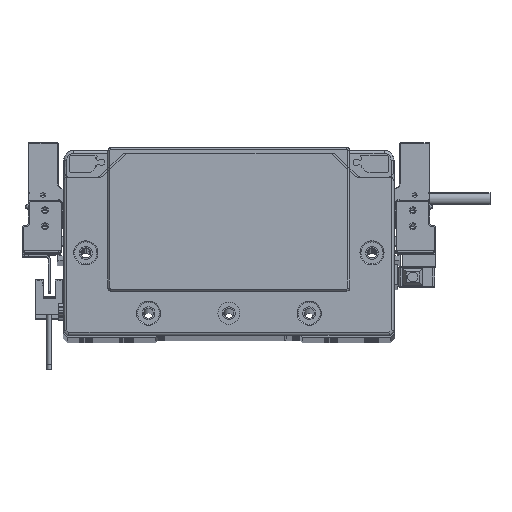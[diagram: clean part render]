
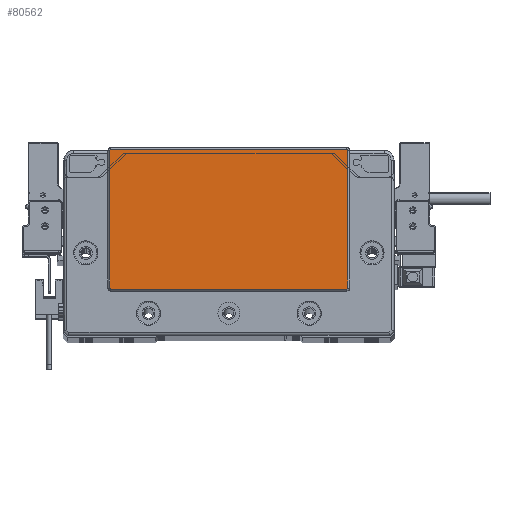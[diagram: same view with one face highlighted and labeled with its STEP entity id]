
A CAD part, top view. The second image highlights one B-rep face of the part: STEP entity #80562.
In plain terms, the highlighted planar face has unit normal (0, 0, 1) as drawn and (0, 0, -1) by its records, which use the part's own axes.
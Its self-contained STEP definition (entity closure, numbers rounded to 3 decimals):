
#4719 = EDGE_CURVE ( 'NONE', #26119, #27522, #93017, .T. ) ;
#4967 = EDGE_LOOP ( 'NONE', ( #63442, #5216, #49257, #5571, #20298, #6908, #94816, #10789 ) ) ;
#5216 = ORIENTED_EDGE ( 'NONE', *, *, #4719, .T. ) ;
#5571 = ORIENTED_EDGE ( 'NONE', *, *, #9741, .T. ) ;
#6908 = ORIENTED_EDGE ( 'NONE', *, *, #26691, .T. ) ;
#8251 = EDGE_CURVE ( 'NONE', #27522, #86371, #93577, .T. ) ;
#9741 = EDGE_CURVE ( 'NONE', #86371, #19463, #102176, .T. ) ;
#10789 = ORIENTED_EDGE ( 'NONE', *, *, #16004, .T. ) ;
#11744 = AXIS2_PLACEMENT_3D ( 'NONE', #14345, #96930, #89452 ) ;
#11847 = CARTESIAN_POINT ( 'NONE',  ( 58.75, -23.3, -2. ) ) ;
#13410 = VECTOR ( 'NONE', #19021, 1000. ) ;
#14262 = LINE ( 'NONE', #38819, #72123 ) ;
#14345 = CARTESIAN_POINT ( 'NONE',  ( -58.75, -23.3, -2. ) ) ;
#16004 = EDGE_CURVE ( 'NONE', #62869, #102226, #102484, .T. ) ;
#18823 = DIRECTION ( 'NONE',  ( 0., 0., -1. ) ) ;
#19021 = DIRECTION ( 'NONE',  ( -1., 0., 0. ) ) ;
#19463 = VERTEX_POINT ( 'NONE', #62485 ) ;
#20298 = ORIENTED_EDGE ( 'NONE', *, *, #39734, .T. ) ;
#20909 = DIRECTION ( 'NONE',  ( -1., 0., 0. ) ) ;
#26119 = VERTEX_POINT ( 'NONE', #27491 ) ;
#26691 = EDGE_CURVE ( 'NONE', #100800, #71216, #86290, .T. ) ;
#27491 = CARTESIAN_POINT ( 'NONE',  ( 59.25, -23.3, -2. ) ) ;
#27522 = VERTEX_POINT ( 'NONE', #103130 ) ;
#27840 = LINE ( 'NONE', #74700, #68850 ) ;
#32717 = CARTESIAN_POINT ( 'NONE',  ( -59.25, 45.3, -2. ) ) ;
#32914 = VECTOR ( 'NONE', #88483, 1000. ) ;
#38819 = CARTESIAN_POINT ( 'NONE',  ( -59.25, 45.3, -2. ) ) ;
#39539 = CARTESIAN_POINT ( 'NONE',  ( 58.75, 45.3, -2. ) ) ;
#39734 = EDGE_CURVE ( 'NONE', #19463, #100800, #14262, .T. ) ;
#42029 = EDGE_CURVE ( 'NONE', #71216, #62869, #27840, .T. ) ;
#43418 = AXIS2_PLACEMENT_3D ( 'NONE', #59331, #18823, #51331 ) ;
#43888 = FACE_OUTER_BOUND ( 'NONE', #4967, .T. ) ;
#44377 = DIRECTION ( 'NONE',  ( 0., 0., -1. ) ) ;
#49257 = ORIENTED_EDGE ( 'NONE', *, *, #8251, .T. ) ;
#51331 = DIRECTION ( 'NONE',  ( -1., 0., 0. ) ) ;
#54633 = CARTESIAN_POINT ( 'NONE',  ( -58.75, 45.8, -2. ) ) ;
#57613 = DIRECTION ( 'NONE',  ( 0., 0., -1. ) ) ;
#58759 = DIRECTION ( 'NONE',  ( 1., 0., 0. ) ) ;
#59331 = CARTESIAN_POINT ( 'NONE',  ( 0., 0., -2. ) ) ;
#62485 = CARTESIAN_POINT ( 'NONE',  ( -59.25, -23.3, -2. ) ) ;
#62869 = VERTEX_POINT ( 'NONE', #82014 ) ;
#63315 = AXIS2_PLACEMENT_3D ( 'NONE', #39539, #57613, #90086 ) ;
#63442 = ORIENTED_EDGE ( 'NONE', *, *, #99947, .T. ) ;
#63496 = DIRECTION ( 'NONE',  ( -1., 0., 0. ) ) ;
#68850 = VECTOR ( 'NONE', #58759, 1000. ) ;
#71216 = VERTEX_POINT ( 'NONE', #54633 ) ;
#71464 = CARTESIAN_POINT ( 'NONE',  ( -58.75, 45.3, -2. ) ) ;
#72123 = VECTOR ( 'NONE', #103780, 1000. ) ;
#74700 = CARTESIAN_POINT ( 'NONE',  ( 58.75, 45.8, -2. ) ) ;
#76843 = PLANE ( 'NONE',  #43418 ) ;
#79427 = CARTESIAN_POINT ( 'NONE',  ( 59.25, -23.3, -2. ) ) ;
#79953 = LINE ( 'NONE', #79427, #32914 ) ;
#80040 = CARTESIAN_POINT ( 'NONE',  ( 59.25, 45.3, -2. ) ) ;
#80562 = ADVANCED_FACE ( 'NONE', ( #43888 ), #76843, .T. ) ;
#82014 = CARTESIAN_POINT ( 'NONE',  ( 58.75, 45.8, -2. ) ) ;
#86290 = CIRCLE ( 'NONE', #99941, 0.5 ) ;
#86371 = VERTEX_POINT ( 'NONE', #102212 ) ;
#88483 = DIRECTION ( 'NONE',  ( 0., -1., 0. ) ) ;
#89452 = DIRECTION ( 'NONE',  ( -1., 0., 0. ) ) ;
#90086 = DIRECTION ( 'NONE',  ( -1., 0., 0. ) ) ;
#93017 = CIRCLE ( 'NONE', #104954, 0.5 ) ;
#93049 = CARTESIAN_POINT ( 'NONE',  ( -58.75, -23.8, -2. ) ) ;
#93577 = LINE ( 'NONE', #93049, #13410 ) ;
#94816 = ORIENTED_EDGE ( 'NONE', *, *, #42029, .T. ) ;
#96535 = DIRECTION ( 'NONE',  ( 0., 0., -1. ) ) ;
#96930 = DIRECTION ( 'NONE',  ( 0., 0., -1. ) ) ;
#99941 = AXIS2_PLACEMENT_3D ( 'NONE', #71464, #96535, #63496 ) ;
#99947 = EDGE_CURVE ( 'NONE', #102226, #26119, #79953, .T. ) ;
#100800 = VERTEX_POINT ( 'NONE', #32717 ) ;
#102176 = CIRCLE ( 'NONE', #11744, 0.5 ) ;
#102212 = CARTESIAN_POINT ( 'NONE',  ( -58.75, -23.8, -2. ) ) ;
#102226 = VERTEX_POINT ( 'NONE', #80040 ) ;
#102484 = CIRCLE ( 'NONE', #63315, 0.5 ) ;
#103130 = CARTESIAN_POINT ( 'NONE',  ( 58.75, -23.8, -2. ) ) ;
#103780 = DIRECTION ( 'NONE',  ( 0., 1., 0. ) ) ;
#104954 = AXIS2_PLACEMENT_3D ( 'NONE', #11847, #44377, #20909 ) ;
